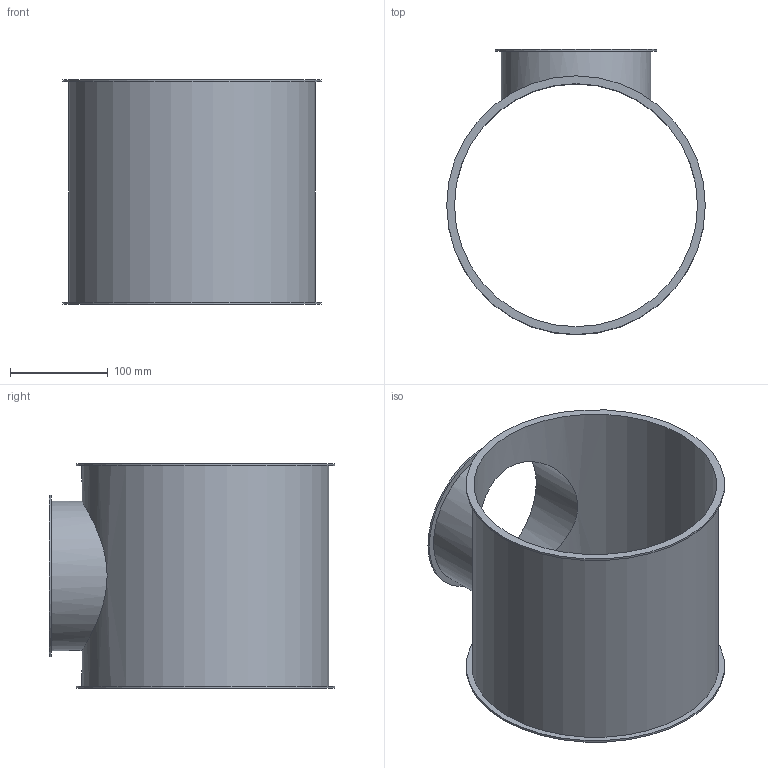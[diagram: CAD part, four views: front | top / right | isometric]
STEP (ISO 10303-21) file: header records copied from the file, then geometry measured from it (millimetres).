
FILE_DESCRIPTION((''),'2;1');
FILE_NAME('U:\Wolfgang\Marcel-3D\fertig\Kapitel 4\2521039.stp','2011-04-21T08:25:53',('TK1'),(''),'Autodesk Inventor 2010','Autodesk Inventor 2010','');
FILE_SCHEMA(('AUTOMOTIVE_DESIGN { 1 0 10303 214 1 1 1 1 }'));
Length unit declared in the file: millimetre
Products named in the file (1): 2521039
Bounding box: 265 x 292.5 x 230 mm (x, y, z)
Volume: 390340.7 mm3; surface area: 399328.4 mm2
Topology: 1 solids, 1 shells, 13 faces, 23 edges, 16 vertices
Faces by surface type: cylinder 7, plane 6
Full cylindrical faces by diameter (mm): 149 x1, 153 x1, 165 x1, 249 x1, 253 x1, 265 x2
Entity records: 432 total; most frequent: CARTESIAN_POINT 172, DIRECTION 52, ORIENTED_EDGE 28, EDGE_LOOP 28, AXIS2_PLACEMENT_3D 26, FACE_BOUND 15, VERTEX_POINT 14, EDGE_CURVE 14
